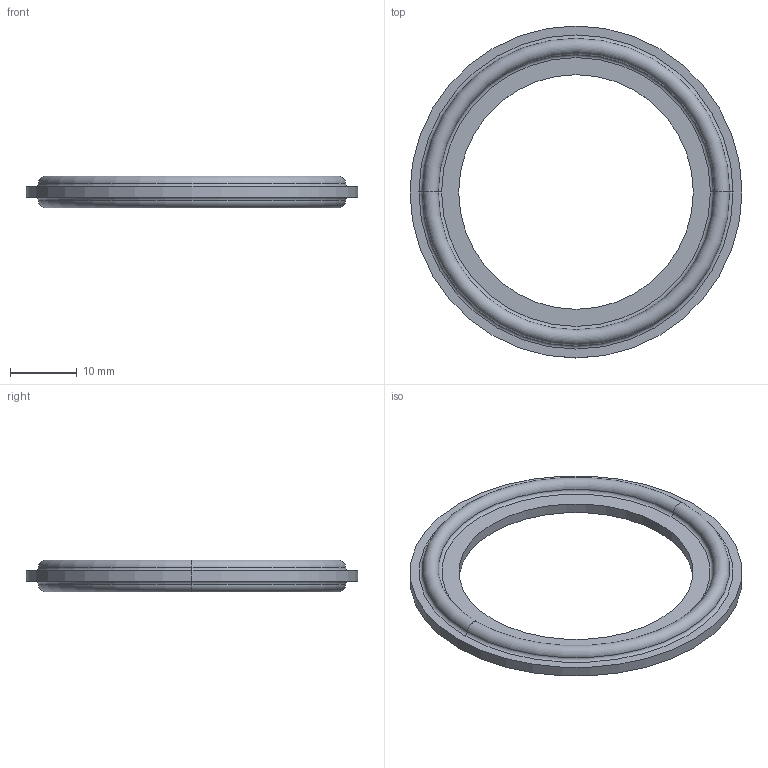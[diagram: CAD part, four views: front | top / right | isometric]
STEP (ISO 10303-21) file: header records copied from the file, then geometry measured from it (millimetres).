
FILE_DESCRIPTION (( 'STEP AP214' ), '1' );
FILE_NAME ('EG40 1.5 GASKET.STEP', '2024-10-10T10:41:47', ( '' ), ( '' ), 'SwSTEP 2.0', 'SolidWorks 2021', '' );
FILE_SCHEMA (( 'AUTOMOTIVE_DESIGN' ));
Length unit declared in the file: inch
Products named in the file (1): EG40 1.5 GASKET
Bounding box: 49.71 x 49.71 x 4.79 mm (x, y, z)
Volume: 2451.6 mm3; surface area: 2844.6 mm2
Topology: 1 solids, 1 shells, 20 faces, 40 edges, 24 vertices
Faces by surface type: torus 12, cylinder 4, plane 4
Entity records: 580 total; most frequent: DIRECTION 118, CARTESIAN_POINT 85, ORIENTED_EDGE 80, AXIS2_PLACEMENT_3D 57, EDGE_CURVE 40, CIRCLE 36, EDGE_LOOP 24, VERTEX_POINT 24
